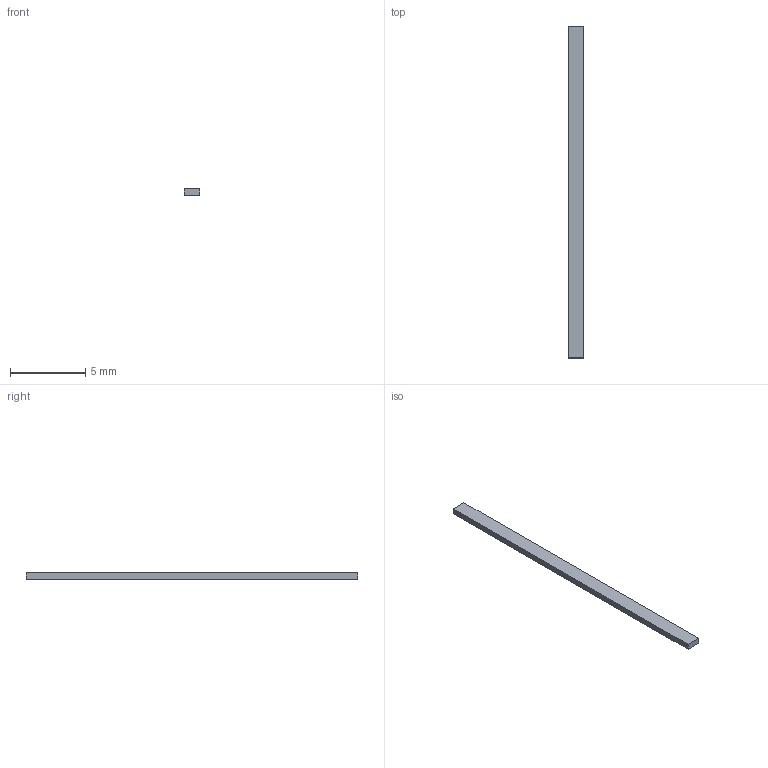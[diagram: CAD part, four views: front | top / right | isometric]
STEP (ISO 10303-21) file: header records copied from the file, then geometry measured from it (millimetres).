
FILE_DESCRIPTION(('Open CASCADE Model'),'2;1');
FILE_NAME('Open CASCADE Shape Model','2026-10-01T12:35:22',('Author'),( 'Open CASCADE'),'Open CASCADE STEP processor 7.8','Open CASCADE 7.8' ,'Unknown');
FILE_SCHEMA(('AUTOMOTIVE_DESIGN { 1 0 10303 214 1 1 1 1 }'));
Length unit declared in the file: millimetre
Products named in the file (2): H08_Power_pad_-20_-1; H08_Power_pad_-20_-1_solid
Assembly tree (1 placements, depth 2):
  H08_Power_pad_-20_-1
    H08_Power_pad_-20_-1_solid
Bounding box: 1 x 22 x 0.4 mm (x, y, z)
Volume: 8.8 mm3; surface area: 62.4 mm2
Topology: 1 solids, 1 shells, 6 faces, 12 edges, 8 vertices
Faces by surface type: plane 6
Entity records: 349 total; most frequent: CARTESIAN_POINT 52, DIRECTION 52, LINE 36, VECTOR 36, ORIENTED_EDGE 24, PCURVE 24, DEFINITIONAL_REPRESENTATION 24, EDGE_CURVE 12
